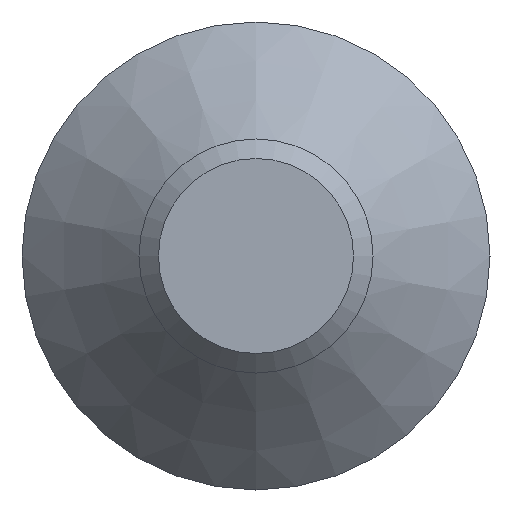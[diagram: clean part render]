
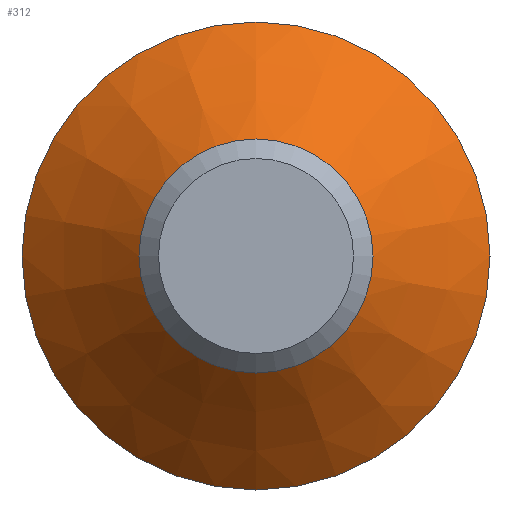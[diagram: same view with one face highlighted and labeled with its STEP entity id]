
A CAD part, front view. The second image highlights one B-rep face of the part: STEP entity #312.
In plain terms, the highlighted conical face has half-angle 45 degrees and reference radius 6 mm.
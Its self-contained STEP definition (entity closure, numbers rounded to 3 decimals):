
#13 = DIRECTION ( 'NONE',  ( 0., -1., 0. ) ) ;
#25 = CARTESIAN_POINT ( 'NONE',  ( 0., 0., 3. ) ) ;
#34 = CIRCLE ( 'NONE', #218, 3. ) ;
#45 = CIRCLE ( 'NONE', #155, 6. ) ;
#49 = EDGE_LOOP ( 'NONE', ( #282 ) ) ;
#52 = DIRECTION ( 'NONE',  ( 0., 0., 1. ) ) ;
#53 = VERTEX_POINT ( 'NONE', #25 ) ;
#55 = CARTESIAN_POINT ( 'NONE',  ( 0., 3., 0. ) ) ;
#59 = EDGE_CURVE ( 'NONE', #351, #351, #45, .T. ) ;
#64 = CARTESIAN_POINT ( 'NONE',  ( 0., 0., 0. ) ) ;
#69 = DIRECTION ( 'NONE',  ( 0., -1., 0. ) ) ;
#83 = DIRECTION ( 'NONE',  ( 0., 1., 0. ) ) ;
#149 = CARTESIAN_POINT ( 'NONE',  ( 0., 3., 6. ) ) ;
#155 = AXIS2_PLACEMENT_3D ( 'NONE', #248, #69, #52 ) ;
#158 = EDGE_CURVE ( 'NONE', #53, #53, #34, .T. ) ;
#177 = ORIENTED_EDGE ( 'NONE', *, *, #158, .F. ) ;
#197 = DIRECTION ( 'NONE',  ( 0., 0., 1. ) ) ;
#209 = CONICAL_SURFACE ( 'NONE', #292, 6., 0.785 ) ;
#218 = AXIS2_PLACEMENT_3D ( 'NONE', #64, #13, #197 ) ;
#246 = EDGE_LOOP ( 'NONE', ( #177 ) ) ;
#248 = CARTESIAN_POINT ( 'NONE',  ( 0., 3., 0. ) ) ;
#277 = FACE_OUTER_BOUND ( 'NONE', #49, .T. ) ;
#281 = DIRECTION ( 'NONE',  ( 0., 0., 1. ) ) ;
#282 = ORIENTED_EDGE ( 'NONE', *, *, #59, .T. ) ;
#292 = AXIS2_PLACEMENT_3D ( 'NONE', #55, #83, #281 ) ;
#303 = FACE_BOUND ( 'NONE', #246, .T. ) ;
#312 = ADVANCED_FACE ( 'NONE', ( #277, #303 ), #209, .T. ) ;
#351 = VERTEX_POINT ( 'NONE', #149 ) ;
